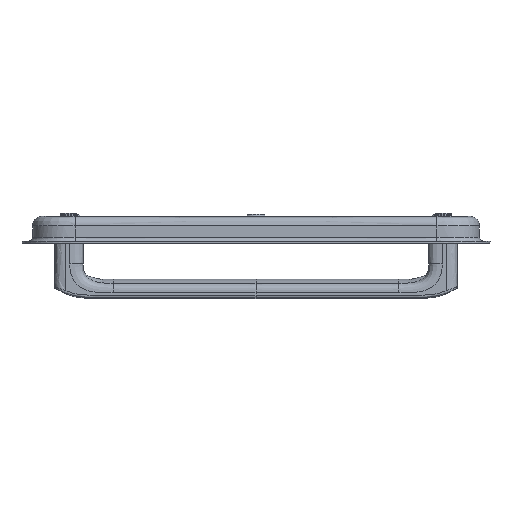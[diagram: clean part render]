
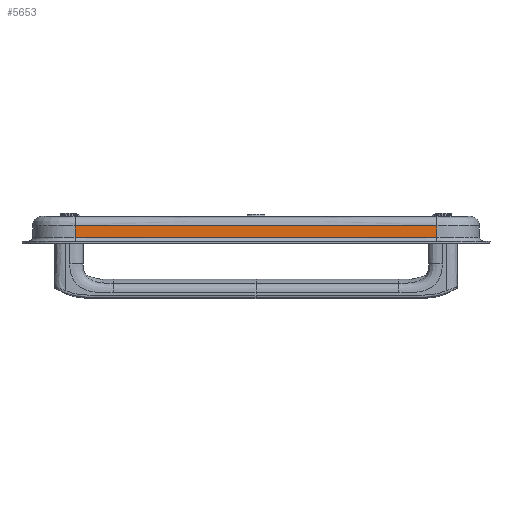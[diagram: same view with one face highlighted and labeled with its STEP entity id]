
A CAD part, left-side view. The second image highlights one B-rep face of the part: STEP entity #5653.
In plain terms, the highlighted free-form (B-spline) face has degree [2, 1] with [3, 2] control points.
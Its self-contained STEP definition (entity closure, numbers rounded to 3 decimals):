
#289=B_SPLINE_SURFACE_WITH_KNOTS('',2,1,((#18560,#18561),(#18562,#18563),
(#18564,#18565)),.UNSPECIFIED.,.F.,.F.,.F.,(3,3),(2,2),(-1.,0.),(0.,2.4),
 .UNSPECIFIED.);
#622=B_SPLINE_CURVE_WITH_KNOTS('',3,(#17634,#17635,#17636,#17637),
 .UNSPECIFIED.,.F.,.F.,(4,4),(0.,18.943),.UNSPECIFIED.);
#639=B_SPLINE_CURVE_WITH_KNOTS('',2,(#18568,#18569,#18570),
 .UNSPECIFIED.,.F.,.F.,(3,3),(0.,18.943),.UNSPECIFIED.);
#1078=FACE_OUTER_BOUND('',#1423,.T.);
#1423=EDGE_LOOP('',(#5224,#5225,#5226,#5227));
#1875=LINE('',#18571,#2305);
#1876=LINE('',#18572,#2306);
#2305=VECTOR('',#6973,10.);
#2306=VECTOR('',#6974,10.);
#2879=VERTEX_POINT('',#17476);
#2880=VERTEX_POINT('',#17633);
#2885=VERTEX_POINT('',#18566);
#2886=VERTEX_POINT('',#18567);
#3648=EDGE_CURVE('',#2880,#2879,#622,.T.);
#3675=EDGE_CURVE('',#2885,#2886,#639,.T.);
#3676=EDGE_CURVE('',#2886,#2880,#1875,.T.);
#3677=EDGE_CURVE('',#2879,#2885,#1876,.T.);
#5224=ORIENTED_EDGE('',*,*,#3675,.T.);
#5225=ORIENTED_EDGE('',*,*,#3676,.T.);
#5226=ORIENTED_EDGE('',*,*,#3648,.T.);
#5227=ORIENTED_EDGE('',*,*,#3677,.T.);
#5653=ADVANCED_FACE('',(#1078),#289,.T.);
#6973=DIRECTION('',(0.,0.,1.));
#6974=DIRECTION('',(0.,0.,-1.));
#17476=CARTESIAN_POINT('',(-72.887,95.763,-23.967));
#17633=CARTESIAN_POINT('',(-72.887,-93.668,-23.967));
#17634=CARTESIAN_POINT('Ctrl Pts',(-72.887,-93.668,
-23.967));
#17635=CARTESIAN_POINT('Ctrl Pts',(-72.887,-30.524,
-23.967));
#17636=CARTESIAN_POINT('Ctrl Pts',(-72.887,32.619,-23.967));
#17637=CARTESIAN_POINT('Ctrl Pts',(-72.887,95.763,-23.967));
#18560=CARTESIAN_POINT('Ctrl Pts',(-72.887,-93.668,
-21.967));
#18561=CARTESIAN_POINT('Ctrl Pts',(-72.887,-93.668,
-45.967));
#18562=CARTESIAN_POINT('Ctrl Pts',(-72.887,1.047,-21.967));
#18563=CARTESIAN_POINT('Ctrl Pts',(-72.887,1.047,-45.967));
#18564=CARTESIAN_POINT('Ctrl Pts',(-72.887,95.763,-21.967));
#18565=CARTESIAN_POINT('Ctrl Pts',(-72.887,95.763,-45.967));
#18566=CARTESIAN_POINT('',(-72.887,95.763,-29.967));
#18567=CARTESIAN_POINT('',(-72.887,-93.668,-29.967));
#18568=CARTESIAN_POINT('Ctrl Pts',(-72.887,95.763,-29.967));
#18569=CARTESIAN_POINT('Ctrl Pts',(-72.887,1.047,-29.967));
#18570=CARTESIAN_POINT('Ctrl Pts',(-72.887,-93.668,
-29.967));
#18571=CARTESIAN_POINT('',(-72.887,-93.668,-36.967));
#18572=CARTESIAN_POINT('',(-72.887,95.763,-23.967));
